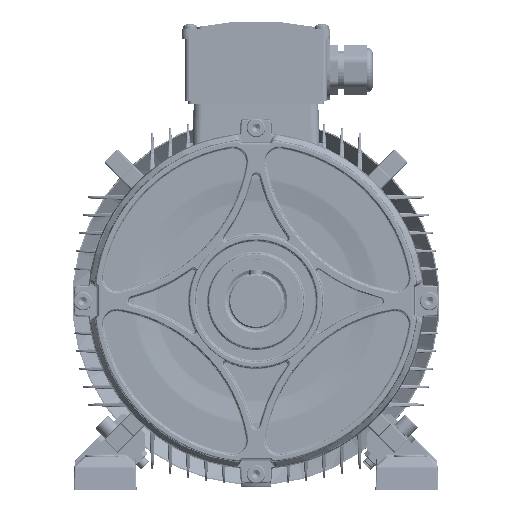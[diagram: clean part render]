
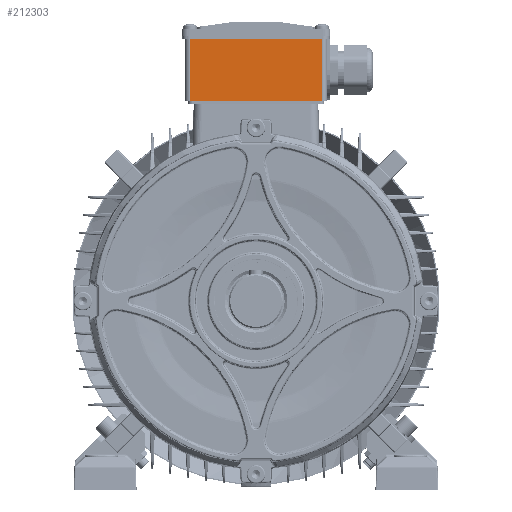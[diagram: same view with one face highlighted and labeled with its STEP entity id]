
A CAD part, left-side view. The second image highlights one B-rep face of the part: STEP entity #212303.
In plain terms, the highlighted planar face has unit normal (-1, 0, 0).
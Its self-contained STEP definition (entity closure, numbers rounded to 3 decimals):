
#850 = CARTESIAN_POINT ( 'NONE',  ( -49.488, 0., -46.126 ) ) ;
#6380 = DIRECTION ( 'NONE',  ( 0., -1., 0. ) ) ;
#14749 = EDGE_LOOP ( 'NONE', ( #89107, #54264, #255151, #203680 ) ) ;
#23387 = LINE ( 'NONE', #142960, #180172 ) ;
#30235 = EDGE_CURVE ( 'NONE', #86518, #161561, #23387, .T. ) ;
#30934 = VECTOR ( 'NONE', #6380, 1000. ) ;
#33346 = LINE ( 'NONE', #107087, #146897 ) ;
#43832 = AXIS2_PLACEMENT_3D ( 'NONE', #154259, #219386, #91748 ) ;
#54264 = ORIENTED_EDGE ( 'NONE', *, *, #179913, .T. ) ;
#58036 = DIRECTION ( 'NONE',  ( 0., 0., 1. ) ) ;
#73886 = FACE_OUTER_BOUND ( 'NONE', #14749, .T. ) ;
#86518 = VERTEX_POINT ( 'NONE', #850 ) ;
#87884 = EDGE_CURVE ( 'NONE', #133701, #161561, #244450, .T. ) ;
#89107 = ORIENTED_EDGE ( 'NONE', *, *, #246687, .F. ) ;
#91748 = DIRECTION ( 'NONE',  ( 0., 0., -1. ) ) ;
#107087 = CARTESIAN_POINT ( 'NONE',  ( -49.488, 43., -46.126 ) ) ;
#120743 = LINE ( 'NONE', #255249, #183998 ) ;
#128565 = DIRECTION ( 'NONE',  ( 0., 0., 1. ) ) ;
#133701 = VERTEX_POINT ( 'NONE', #216686 ) ;
#134267 = CARTESIAN_POINT ( 'NONE',  ( -49.488, 47., 46.126 ) ) ;
#142960 = CARTESIAN_POINT ( 'NONE',  ( -49.488, 0., 46.126 ) ) ;
#146897 = VECTOR ( 'NONE', #128565, 1000. ) ;
#149055 = DIRECTION ( 'NONE',  ( 0., -1., 0. ) ) ;
#149060 = CARTESIAN_POINT ( 'NONE',  ( -49.488, 43., -46.126 ) ) ;
#154259 = CARTESIAN_POINT ( 'NONE',  ( -49.488, 47., 46.126 ) ) ;
#155581 = VERTEX_POINT ( 'NONE', #149060 ) ;
#161561 = VERTEX_POINT ( 'NONE', #170783 ) ;
#170783 = CARTESIAN_POINT ( 'NONE',  ( -49.488, 0., 46.126 ) ) ;
#179913 = EDGE_CURVE ( 'NONE', #155581, #86518, #120743, .T. ) ;
#180172 = VECTOR ( 'NONE', #58036, 1000. ) ;
#183998 = VECTOR ( 'NONE', #149055, 1000. ) ;
#197940 = PLANE ( 'NONE',  #43832 ) ;
#203680 = ORIENTED_EDGE ( 'NONE', *, *, #87884, .F. ) ;
#212303 = ADVANCED_FACE ( 'NONE', ( #73886 ), #197940, .F. ) ;
#216686 = CARTESIAN_POINT ( 'NONE',  ( -49.488, 43., 46.126 ) ) ;
#219386 = DIRECTION ( 'NONE',  ( 1., 0., 0. ) ) ;
#244450 = LINE ( 'NONE', #134267, #30934 ) ;
#246687 = EDGE_CURVE ( 'NONE', #155581, #133701, #33346, .T. ) ;
#255151 = ORIENTED_EDGE ( 'NONE', *, *, #30235, .T. ) ;
#255249 = CARTESIAN_POINT ( 'NONE',  ( -49.488, 47., -46.126 ) ) ;
